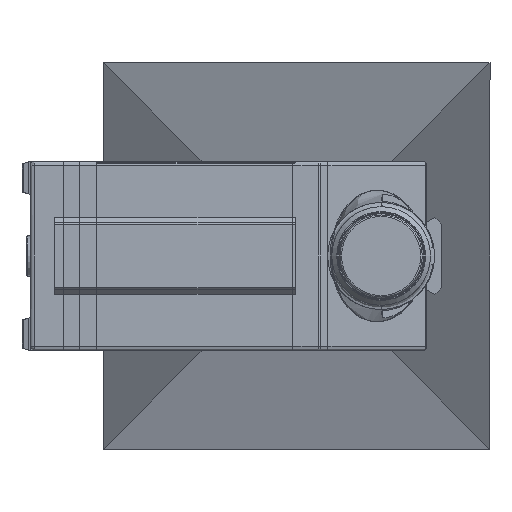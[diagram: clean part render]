
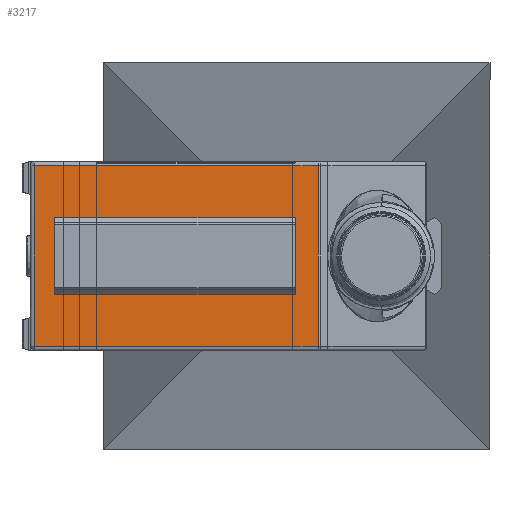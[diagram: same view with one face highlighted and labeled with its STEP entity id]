
A CAD part, left-side view. The second image highlights one B-rep face of the part: STEP entity #3217.
In plain terms, the highlighted planar face has unit normal (-1, 0, 0).
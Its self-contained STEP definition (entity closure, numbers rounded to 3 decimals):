
#58=FACE_BOUND('',#561,.T.);
#200=PLANE('',#3533);
#361=FACE_OUTER_BOUND('',#560,.T.);
#560=EDGE_LOOP('',(#2535,#2536,#2537,#2538));
#561=EDGE_LOOP('',(#2539,#2540,#2541,#2542));
#793=LINE('',#5509,#1041);
#794=LINE('',#5511,#1042);
#795=LINE('',#5513,#1043);
#796=LINE('',#5515,#1044);
#797=LINE('',#5526,#1045);
#798=LINE('',#5528,#1046);
#799=LINE('',#5530,#1047);
#800=LINE('',#5531,#1048);
#1041=VECTOR('',#4216,22.);
#1042=VECTOR('',#4219,34.493);
#1043=VECTOR('',#4222,34.493);
#1044=VECTOR('',#4225,22.);
#1045=VECTOR('',#4242,29.2);
#1046=VECTOR('',#4243,8.2);
#1047=VECTOR('',#4244,29.2);
#1048=VECTOR('',#4245,8.2);
#1440=VERTEX_POINT('',#5488);
#1441=VERTEX_POINT('',#5492);
#1442=VERTEX_POINT('',#5497);
#1443=VERTEX_POINT('',#5501);
#1446=VERTEX_POINT('',#5524);
#1447=VERTEX_POINT('',#5525);
#1448=VERTEX_POINT('',#5527);
#1449=VERTEX_POINT('',#5529);
#1826=EDGE_CURVE('',#1443,#1442,#793,.T.);
#1827=EDGE_CURVE('',#1441,#1443,#794,.T.);
#1828=EDGE_CURVE('',#1442,#1440,#795,.T.);
#1829=EDGE_CURVE('',#1440,#1441,#796,.T.);
#1832=EDGE_CURVE('',#1446,#1447,#797,.T.);
#1833=EDGE_CURVE('',#1447,#1448,#798,.T.);
#1834=EDGE_CURVE('',#1448,#1449,#799,.T.);
#1835=EDGE_CURVE('',#1446,#1449,#800,.T.);
#2535=ORIENTED_EDGE('',*,*,#1826,.F.);
#2536=ORIENTED_EDGE('',*,*,#1827,.F.);
#2537=ORIENTED_EDGE('',*,*,#1829,.F.);
#2538=ORIENTED_EDGE('',*,*,#1828,.F.);
#2539=ORIENTED_EDGE('',*,*,#1832,.T.);
#2540=ORIENTED_EDGE('',*,*,#1833,.T.);
#2541=ORIENTED_EDGE('',*,*,#1834,.T.);
#2542=ORIENTED_EDGE('',*,*,#1835,.F.);
#3217=ADVANCED_FACE('',(#361,#58),#200,.T.);
#3533=AXIS2_PLACEMENT_3D('',#5523,#4240,#4241);
#4216=DIRECTION('',(0.,0.,1.));
#4219=DIRECTION('',(0.,1.,0.));
#4222=DIRECTION('',(0.,-1.,0.));
#4225=DIRECTION('',(0.,0.,-1.));
#4240=DIRECTION('center_axis',(-1.,0.,0.));
#4241=DIRECTION('ref_axis',(0.,0.,
1.));
#4242=DIRECTION('',(0.,-1.,0.));
#4243=DIRECTION('',(0.,0.,-1.));
#4244=DIRECTION('',(0.,1.,0.));
#4245=DIRECTION('',(0.,0.,-1.));
#5488=CARTESIAN_POINT('',(-42.3,13.207,11.));
#5492=CARTESIAN_POINT('',(-42.3,13.207,-11.));
#5497=CARTESIAN_POINT('',(-42.3,47.7,11.));
#5501=CARTESIAN_POINT('',(-42.3,47.7,-11.));
#5509=CARTESIAN_POINT('',(-42.3,47.7,-11.));
#5511=CARTESIAN_POINT('',(-42.3,13.207,-11.));
#5513=CARTESIAN_POINT('',(-42.3,47.7,11.));
#5515=CARTESIAN_POINT('',(-42.3,13.207,11.));
#5523=CARTESIAN_POINT('Origin',(-42.3,48.2,11.5));
#5524=CARTESIAN_POINT('',(-42.3,45.2,4.1));
#5525=CARTESIAN_POINT('',(-42.3,16.,4.1));
#5526=CARTESIAN_POINT('',(-42.3,45.2,4.1));
#5527=CARTESIAN_POINT('',(-42.3,16.,-4.1));
#5528=CARTESIAN_POINT('',(-42.3,16.,4.1));
#5529=CARTESIAN_POINT('',(-42.3,45.2,-4.1));
#5530=CARTESIAN_POINT('',(-42.3,16.,-4.1));
#5531=CARTESIAN_POINT('',(-42.3,45.2,4.1));
